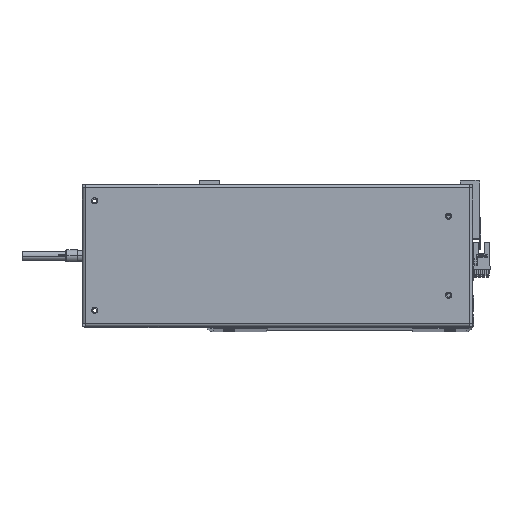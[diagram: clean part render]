
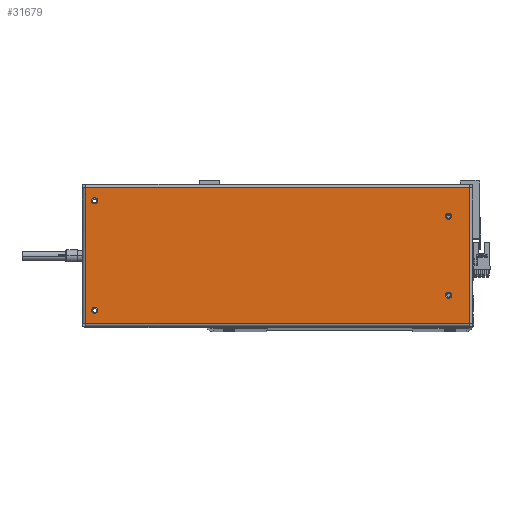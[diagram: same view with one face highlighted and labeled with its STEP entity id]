
A CAD part, top view. The second image highlights one B-rep face of the part: STEP entity #31679.
In plain terms, the highlighted planar face has unit normal (0, 0, 1).
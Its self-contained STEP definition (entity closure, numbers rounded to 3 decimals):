
#9 = LINE ( 'NONE', #7151, #25757 ) ;
#92 = DIRECTION ( 'NONE',  ( 1., 0., 0. ) ) ;
#224 = DIRECTION ( 'NONE',  ( 1., 0., 0. ) ) ;
#295 = PLANE ( 'NONE',  #5583 ) ;
#602 = CARTESIAN_POINT ( 'NONE',  ( -143., 32.5, 0. ) ) ;
#702 = CARTESIAN_POINT ( 'NONE',  ( 157.7, 58.5, 0. ) ) ;
#766 = CARTESIAN_POINT ( 'NONE',  ( 150.5, -45., 0. ) ) ;
#896 = CARTESIAN_POINT ( 'NONE',  ( -138., -32.5, 0. ) ) ;
#1010 = CARTESIAN_POINT ( 'NONE',  ( 148., 45., 0. ) ) ;
#1073 = DIRECTION ( 'NONE',  ( 1., 0., 0. ) ) ;
#1168 = DIRECTION ( 'NONE',  ( 0., 0., 1. ) ) ;
#1382 = CARTESIAN_POINT ( 'NONE',  ( -138., 32.5, 0. ) ) ;
#1418 = CARTESIAN_POINT ( 'NONE',  ( -143., -32.5, 0. ) ) ;
#3546 = DIRECTION ( 'NONE',  ( 0., -1., 0. ) ) ;
#3733 = DIRECTION ( 'NONE',  ( -1., 0., 0. ) ) ;
#3978 = DIRECTION ( 'NONE',  ( 1., 0., 0. ) ) ;
#4049 = CARTESIAN_POINT ( 'NONE',  ( 157.6, -55.6, 0. ) ) ;
#4128 = CIRCLE ( 'NONE', #25550, 2.5 ) ;
#4158 = EDGE_LOOP ( 'NONE', ( #30375, #21894 ) ) ;
#4441 = CARTESIAN_POINT ( 'NONE',  ( 148., -45., 0. ) ) ;
#4472 = VECTOR ( 'NONE', #3546, 1000. ) ;
#4522 = VERTEX_POINT ( 'NONE', #18245 ) ;
#5099 = CARTESIAN_POINT ( 'NONE',  ( 150.5, 45., 0. ) ) ;
#5583 = AXIS2_PLACEMENT_3D ( 'NONE', #702, #22727, #3733 ) ;
#5639 = EDGE_CURVE ( 'NONE', #19107, #36136, #38191, .T. ) ;
#5674 = EDGE_CURVE ( 'NONE', #20932, #17239, #4128, .T. ) ;
#6456 = EDGE_CURVE ( 'NONE', #37667, #4522, #13170, .T. ) ;
#7151 = CARTESIAN_POINT ( 'NONE',  ( -157.7, -55.6, 0. ) ) ;
#7170 = FACE_OUTER_BOUND ( 'NONE', #7903, .T. ) ;
#7769 = EDGE_CURVE ( 'NONE', #39448, #22751, #34873, .T. ) ;
#7903 = EDGE_LOOP ( 'NONE', ( #32613, #12715, #40946, #38456 ) ) ;
#8237 = EDGE_LOOP ( 'NONE', ( #27278, #39993 ) ) ;
#8658 = EDGE_LOOP ( 'NONE', ( #24881, #36994 ) ) ;
#8722 = CIRCLE ( 'NONE', #25656, 2.5 ) ;
#9928 = CARTESIAN_POINT ( 'NONE',  ( -140.5, 32.5, 0. ) ) ;
#10081 = EDGE_CURVE ( 'NONE', #14266, #20335, #10219, .T. ) ;
#10219 = LINE ( 'NONE', #4049, #35455 ) ;
#12100 = DIRECTION ( 'NONE',  ( -1., 0., 0. ) ) ;
#12569 = CIRCLE ( 'NONE', #19884, 2.5 ) ;
#12715 = ORIENTED_EDGE ( 'NONE', *, *, #23283, .T. ) ;
#13046 = CARTESIAN_POINT ( 'NONE',  ( 157.6, 55.6, 0. ) ) ;
#13170 = CIRCLE ( 'NONE', #26628, 2.5 ) ;
#13406 = EDGE_CURVE ( 'NONE', #17239, #20932, #26617, .T. ) ;
#13996 = EDGE_CURVE ( 'NONE', #22751, #39448, #28026, .T. ) ;
#14266 = VERTEX_POINT ( 'NONE', #40982 ) ;
#14356 = AXIS2_PLACEMENT_3D ( 'NONE', #35393, #23103, #35686 ) ;
#15002 = CARTESIAN_POINT ( 'NONE',  ( 157.7, 55.6, 0. ) ) ;
#16794 = CARTESIAN_POINT ( 'NONE',  ( -140.5, -32.5, 0. ) ) ;
#17239 = VERTEX_POINT ( 'NONE', #602 ) ;
#17566 = AXIS2_PLACEMENT_3D ( 'NONE', #16794, #35748, #38414 ) ;
#18245 = CARTESIAN_POINT ( 'NONE',  ( 153., 45., 0. ) ) ;
#19107 = VERTEX_POINT ( 'NONE', #20138 ) ;
#19884 = AXIS2_PLACEMENT_3D ( 'NONE', #26135, #22950, #3978 ) ;
#20018 = AXIS2_PLACEMENT_3D ( 'NONE', #26768, #1168, #23336 ) ;
#20114 = EDGE_LOOP ( 'NONE', ( #27915, #33615 ) ) ;
#20138 = CARTESIAN_POINT ( 'NONE',  ( -157.6, 55.6, 0. ) ) ;
#20335 = VERTEX_POINT ( 'NONE', #13046 ) ;
#20932 = VERTEX_POINT ( 'NONE', #1382 ) ;
#21080 = VECTOR ( 'NONE', #12100, 1000. ) ;
#21894 = ORIENTED_EDGE ( 'NONE', *, *, #7769, .F. ) ;
#22526 = FACE_BOUND ( 'NONE', #20114, .T. ) ;
#22727 = DIRECTION ( 'NONE',  ( 0., 0., -1. ) ) ;
#22751 = VERTEX_POINT ( 'NONE', #31503 ) ;
#22950 = DIRECTION ( 'NONE',  ( 0., 0., 1. ) ) ;
#22980 = VERTEX_POINT ( 'NONE', #896 ) ;
#23103 = DIRECTION ( 'NONE',  ( 0., 0., 1. ) ) ;
#23283 = EDGE_CURVE ( 'NONE', #36136, #14266, #9, .T. ) ;
#23336 = DIRECTION ( 'NONE',  ( 1., 0., 0. ) ) ;
#23849 = EDGE_CURVE ( 'NONE', #26502, #22980, #32167, .T. ) ;
#24881 = ORIENTED_EDGE ( 'NONE', *, *, #28766, .F. ) ;
#25550 = AXIS2_PLACEMENT_3D ( 'NONE', #9928, #28713, #92 ) ;
#25656 = AXIS2_PLACEMENT_3D ( 'NONE', #29247, #32293, #32037 ) ;
#25757 = VECTOR ( 'NONE', #1073, 1000. ) ;
#26135 = CARTESIAN_POINT ( 'NONE',  ( 150.5, 45., 0. ) ) ;
#26434 = CARTESIAN_POINT ( 'NONE',  ( -157.6, -55.6, 0. ) ) ;
#26502 = VERTEX_POINT ( 'NONE', #1418 ) ;
#26617 = CIRCLE ( 'NONE', #14356, 2.5 ) ;
#26628 = AXIS2_PLACEMENT_3D ( 'NONE', #5099, #26986, #27265 ) ;
#26768 = CARTESIAN_POINT ( 'NONE',  ( 150.5, -45., 0. ) ) ;
#26986 = DIRECTION ( 'NONE',  ( 0., 0., 1. ) ) ;
#27265 = DIRECTION ( 'NONE',  ( 1., 0., 0. ) ) ;
#27278 = ORIENTED_EDGE ( 'NONE', *, *, #5674, .F. ) ;
#27915 = ORIENTED_EDGE ( 'NONE', *, *, #36885, .F. ) ;
#27918 = FACE_BOUND ( 'NONE', #8658, .T. ) ;
#28026 = CIRCLE ( 'NONE', #34747, 2.5 ) ;
#28713 = DIRECTION ( 'NONE',  ( 0., 0., 1. ) ) ;
#28766 = EDGE_CURVE ( 'NONE', #4522, #37667, #12569, .T. ) ;
#29247 = CARTESIAN_POINT ( 'NONE',  ( -140.5, -32.5, 0. ) ) ;
#30375 = ORIENTED_EDGE ( 'NONE', *, *, #13996, .F. ) ;
#30960 = EDGE_CURVE ( 'NONE', #20335, #19107, #31996, .T. ) ;
#31503 = CARTESIAN_POINT ( 'NONE',  ( 153., -45., 0. ) ) ;
#31679 = ADVANCED_FACE ( 'NONE', ( #22526, #37891, #37370, #27918, #7170 ), #295, .F. ) ;
#31769 = CARTESIAN_POINT ( 'NONE',  ( -157.6, 55.6, 0. ) ) ;
#31996 = LINE ( 'NONE', #15002, #21080 ) ;
#32037 = DIRECTION ( 'NONE',  ( 1., 0., 0. ) ) ;
#32167 = CIRCLE ( 'NONE', #17566, 2.5 ) ;
#32293 = DIRECTION ( 'NONE',  ( 0., 0., 1. ) ) ;
#32446 = DIRECTION ( 'NONE',  ( 0., 0., 1. ) ) ;
#32589 = DIRECTION ( 'NONE',  ( 0., 1., 0. ) ) ;
#32613 = ORIENTED_EDGE ( 'NONE', *, *, #5639, .T. ) ;
#33615 = ORIENTED_EDGE ( 'NONE', *, *, #23849, .F. ) ;
#34747 = AXIS2_PLACEMENT_3D ( 'NONE', #766, #32446, #224 ) ;
#34873 = CIRCLE ( 'NONE', #20018, 2.5 ) ;
#35393 = CARTESIAN_POINT ( 'NONE',  ( -140.5, 32.5, 0. ) ) ;
#35455 = VECTOR ( 'NONE', #32589, 1000. ) ;
#35686 = DIRECTION ( 'NONE',  ( 1., 0., 0. ) ) ;
#35748 = DIRECTION ( 'NONE',  ( 0., 0., 1. ) ) ;
#36136 = VERTEX_POINT ( 'NONE', #26434 ) ;
#36885 = EDGE_CURVE ( 'NONE', #22980, #26502, #8722, .T. ) ;
#36994 = ORIENTED_EDGE ( 'NONE', *, *, #6456, .F. ) ;
#37370 = FACE_BOUND ( 'NONE', #4158, .T. ) ;
#37667 = VERTEX_POINT ( 'NONE', #1010 ) ;
#37891 = FACE_BOUND ( 'NONE', #8237, .T. ) ;
#38191 = LINE ( 'NONE', #31769, #4472 ) ;
#38414 = DIRECTION ( 'NONE',  ( 1., 0., 0. ) ) ;
#38456 = ORIENTED_EDGE ( 'NONE', *, *, #30960, .T. ) ;
#39448 = VERTEX_POINT ( 'NONE', #4441 ) ;
#39993 = ORIENTED_EDGE ( 'NONE', *, *, #13406, .F. ) ;
#40946 = ORIENTED_EDGE ( 'NONE', *, *, #10081, .T. ) ;
#40982 = CARTESIAN_POINT ( 'NONE',  ( 157.6, -55.6, 0. ) ) ;
